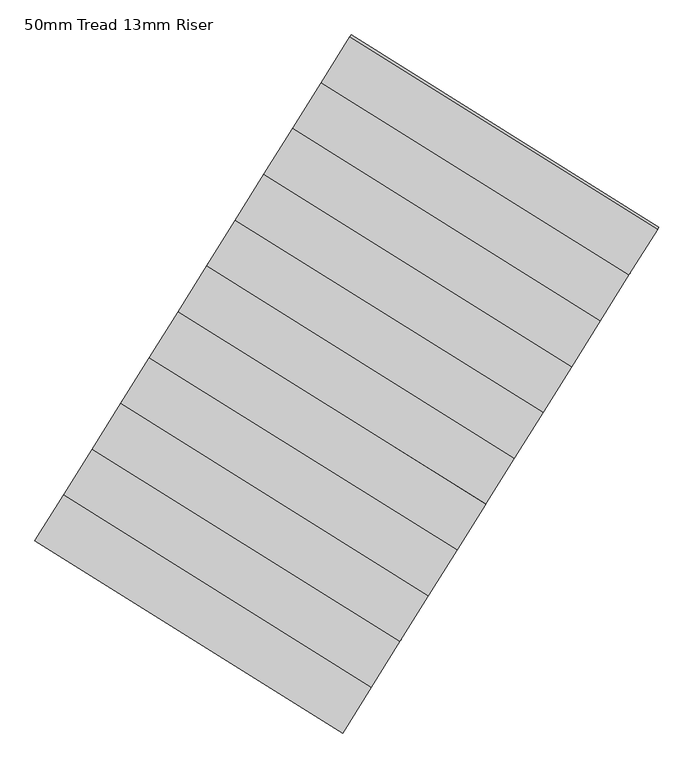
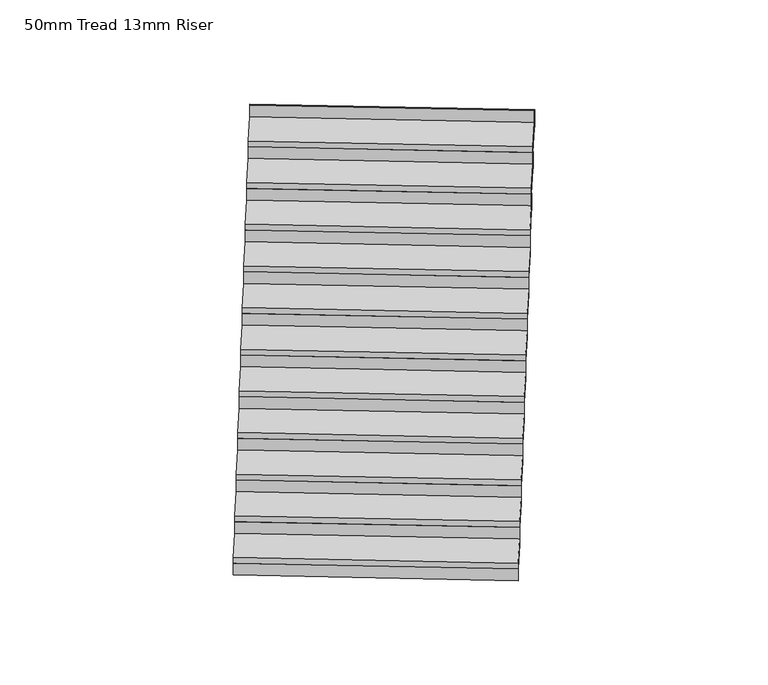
"""IFC4 building model written with IfcOpenShell, lengths in millimetres: stair flight geometry, 50mm Tread 13mm Riser."""

from ifc_helpers import new_model, si_unit, frame, origin, place, context, project, spatial, polyline, outline, extrude, source, transform, mapped, element, save


def stair_flight_50mm_tread_13mm_riser_db3eebb3(model_context):
    return source(origin(), model_context, "Body", "SweptSolid", [
        extrude(outline(polyline([(45890.1107141, -53305.0621823), (45883.4867233, -53315.6627835), (44174.7077702, -52247.8991865), (44181.331761, -52237.2985853), (45890.1107141, -53305.0621823)])), frame((0.0, 0.0, -3600.0), z_axis=(0.0, 0.0, 1.0), x_axis=(1.0, 0.0, 0.0)), (0.0, 0.0, 1.0), 100.0),
        extrude(outline(polyline([(44333.6835494, -51993.4847577), (46042.4625025, -53061.2483547), (45883.4867233, -53315.6627835), (44174.7077702, -52247.8991865), (44333.6835494, -51993.4847577)])), frame((0.0, 0.0, -3500.0), z_axis=(0.0, 0.0, 1.0), x_axis=(1.0, 0.0, 0.0)), (0.0, 0.0, 1.0), 50.0),
        extrude(outline(polyline([(46049.0864934, -53050.6477535), (46042.4625025, -53061.2483547), (44333.6835494, -51993.4847577), (44340.3075402, -51982.8841565), (46049.0864934, -53050.6477535)])), frame((0.0, 0.0, -3500.0), z_axis=(0.0, 0.0, 1.0), x_axis=(1.0, 0.0, 0.0)), (0.0, 0.0, 1.0), 150.0),
        extrude(outline(polyline([(44492.6593287, -51739.0703288), (46201.4382818, -52806.8339258), (46042.4625025, -53061.2483547), (44333.6835494, -51993.4847577), (44492.6593287, -51739.0703288)])), frame((0.0, 0.0, -3350.0), z_axis=(0.0, 0.0, 1.0), x_axis=(1.0, 0.0, 0.0)), (0.0, 0.0, 1.0), 50.0),
        extrude(outline(polyline([(46208.0622726, -52796.2333246), (46201.4382818, -52806.8339258), (44492.6593287, -51739.0703288), (44499.2833195, -51728.4697276), (46208.0622726, -52796.2333246)])), frame((0.0, 0.0, -3350.0), z_axis=(0.0, 0.0, 1.0), x_axis=(1.0, 0.0, 0.0)), (0.0, 0.0, 1.0), 150.0),
        extrude(outline(polyline([(44651.635108, -51484.6559), (46360.4140611, -52552.419497), (46201.4382818, -52806.8339258), (44492.6593287, -51739.0703288), (44651.635108, -51484.6559)])), frame((0.0, 0.0, -3200.0), z_axis=(0.0, 0.0, 1.0), x_axis=(1.0, 0.0, 0.0)), (0.0, 0.0, 1.0), 50.0),
        extrude(outline(polyline([(46367.0380519, -52541.8188958), (46360.4140611, -52552.419497), (44651.635108, -51484.6559), (44658.2590988, -51474.0552988), (46367.0380519, -52541.8188958)])), frame((0.0, 0.0, -3200.0), z_axis=(0.0, 0.0, 1.0), x_axis=(1.0, 0.0, 0.0)), (0.0, 0.0, 1.0), 150.0),
        extrude(outline(polyline([(44810.6108873, -51230.2414711), (46519.3898404, -52298.0050681), (46360.4140611, -52552.419497), (44651.635108, -51484.6559), (44810.6108873, -51230.2414711)])), frame((0.0, 0.0, -3050.0), z_axis=(0.0, 0.0, 1.0), x_axis=(1.0, 0.0, 0.0)), (0.0, 0.0, 1.0), 50.0),
        extrude(outline(polyline([(46526.0138312, -52287.4044669), (46519.3898404, -52298.0050681), (44810.6108873, -51230.2414711), (44817.2348781, -51219.6408699), (46526.0138312, -52287.4044669)])), frame((0.0, 0.0, -3050.0), z_axis=(0.0, 0.0, 1.0), x_axis=(1.0, 0.0, 0.0)), (0.0, 0.0, 1.0), 150.0),
        extrude(outline(polyline([(44969.5866665, -50975.8270423), (46678.3656196, -52043.5906393), (46519.3898404, -52298.0050681), (44810.6108873, -51230.2414711), (44969.5866665, -50975.8270423)])), frame((0.0, 0.0, -2900.0), z_axis=(0.0, 0.0, 1.0), x_axis=(1.0, 0.0, 0.0)), (0.0, 0.0, 1.0), 50.0),
        extrude(outline(polyline([(46684.9896104, -52032.9900381), (46678.3656196, -52043.5906393), (44969.5866665, -50975.8270423), (44976.2106573, -50965.2264411), (46684.9896104, -52032.9900381)])), frame((0.0, 0.0, -2900.0), z_axis=(0.0, 0.0, 1.0), x_axis=(1.0, 0.0, 0.0)), (0.0, 0.0, 1.0), 150.0),
        extrude(outline(polyline([(45128.5624458, -50721.4126134), (46837.3413989, -51789.1762104), (46678.3656196, -52043.5906393), (44969.5866665, -50975.8270423), (45128.5624458, -50721.4126134)])), frame((0.0, 0.0, -2750.0), z_axis=(0.0, 0.0, 1.0), x_axis=(1.0, 0.0, 0.0)), (0.0, 0.0, 1.0), 50.0),
        extrude(outline(polyline([(46843.9653897, -51778.5756092), (46837.3413989, -51789.1762104), (45128.5624458, -50721.4126134), (45135.1864366, -50710.8120122), (46843.9653897, -51778.5756092)])), frame((0.0, 0.0, -2750.0), z_axis=(0.0, 0.0, 1.0), x_axis=(1.0, 0.0, 0.0)), (0.0, 0.0, 1.0), 150.0),
        extrude(outline(polyline([(45287.5382251, -50466.9981846), (46996.3171782, -51534.7617816), (46837.3413989, -51789.1762104), (45128.5624458, -50721.4126134), (45287.5382251, -50466.9981846)])), frame((0.0, 0.0, -2600.0), z_axis=(0.0, 0.0, 1.0), x_axis=(1.0, 0.0, 0.0)), (0.0, 0.0, 1.0), 50.0),
        extrude(outline(polyline([(47002.941169, -51524.1611804), (46996.3171782, -51534.7617816), (45287.5382251, -50466.9981846), (45294.1622159, -50456.3975834), (47002.941169, -51524.1611804)])), frame((0.0, 0.0, -2600.0), z_axis=(0.0, 0.0, 1.0), x_axis=(1.0, 0.0, 0.0)), (0.0, 0.0, 1.0), 150.0),
        extrude(outline(polyline([(45446.5140043, -50212.5837558), (47155.2929574, -51280.3473527), (46996.3171782, -51534.7617816), (45287.5382251, -50466.9981846), (45446.5140043, -50212.5837558)])), frame((0.0, 0.0, -2450.0), z_axis=(0.0, 0.0, 1.0), x_axis=(1.0, 0.0, 0.0)), (0.0, 0.0, 1.0), 50.0),
        extrude(outline(polyline([(47161.9169482, -51269.7467515), (47155.2929574, -51280.3473527), (45446.5140043, -50212.5837558), (45453.1379951, -50201.9831545), (47161.9169482, -51269.7467515)])), frame((0.0, 0.0, -2450.0), z_axis=(0.0, 0.0, 1.0), x_axis=(1.0, 0.0, 0.0)), (0.0, 0.0, 1.0), 150.0),
        extrude(outline(polyline([(45605.4897836, -49958.1693269), (47314.2687367, -51025.9329239), (47155.2929574, -51280.3473527), (45446.5140043, -50212.5837558), (45605.4897836, -49958.1693269)])), frame((0.0, 0.0, -2300.0), z_axis=(0.0, 0.0, 1.0), x_axis=(1.0, 0.0, 0.0)), (0.0, 0.0, 1.0), 50.0),
        extrude(outline(polyline([(47320.8927275, -51015.3323227), (47314.2687367, -51025.9329239), (45605.4897836, -49958.1693269), (45612.1137744, -49947.5687257), (47320.8927275, -51015.3323227)])), frame((0.0, 0.0, -2300.0), z_axis=(0.0, 0.0, 1.0), x_axis=(1.0, 0.0, 0.0)), (0.0, 0.0, 1.0), 150.0),
        extrude(outline(polyline([(45764.4655629, -49703.7548981), (47473.244516, -50771.518495), (47314.2687367, -51025.9329239), (45605.4897836, -49958.1693269), (45764.4655629, -49703.7548981)])), frame((0.0, 0.0, -2150.0), z_axis=(0.0, 0.0, 1.0), x_axis=(1.0, 0.0, 0.0)), (0.0, 0.0, 1.0), 50.0),
        extrude(outline(polyline([(47479.8685068, -50760.9178938), (47473.244516, -50771.518495), (45764.4655629, -49703.7548981), (45771.0895537, -49693.1542969), (47479.8685068, -50760.9178938)])), frame((0.0, 0.0, -2150.0), z_axis=(0.0, 0.0, 1.0), x_axis=(1.0, 0.0, 0.0)), (0.0, 0.0, 1.0), 150.0),
        extrude(outline(polyline([(47638.8442861, -50506.503465), (47632.2202952, -50517.1040662), (45923.4413421, -49449.3404692), (45930.0653329, -49438.739868), (47638.8442861, -50506.503465)])), frame((0.0, 0.0, -2000.0), z_axis=(0.0, 0.0, 1.0), x_axis=(1.0, 0.0, 0.0)), (0.0, 0.0, 1.0), 150.0),
        extrude(outline(polyline([(45923.4413421, -49449.3404692), (47632.2202952, -50517.1040662), (47473.244516, -50771.518495), (45764.4655629, -49703.7548981), (45923.4413421, -49449.3404692)])), frame((0.0, 0.0, -2000.0), z_axis=(0.0, 0.0, 1.0), x_axis=(1.0, 0.0, 0.0)), (0.0, 0.0, 1.0), 50.0),
    ])


if __name__ == "__main__":
    model = new_model("IFC4")
    model_context = context("Model", 3, world=origin())
    ifc_project = project(units=[si_unit("LENGTHUNIT", "METRE", prefix="MILLI")], contexts=[model_context])
    site = spatial("IfcSite", under=ifc_project)
    building = spatial("IfcBuilding", under=site)
    placement = place(None, origin())
    stair_flight_50mm_tread_13mm_riser_shape = stair_flight_50mm_tread_13mm_riser_db3eebb3(model_context)
    element("IfcStairFlight", 1, ObjectType="50mm Tread 13mm Riser", at=placement, inside=building, context=model_context, shape_type="MappedRepresentation", body=[
        mapped(stair_flight_50mm_tread_13mm_riser_shape, transform((0.0, 0.0, 0.0), x_axis=(1.0, 0.0, 0.0), y_axis=(0.0, 1.0, 0.0), z_axis=(0.0, 0.0, 1.0))),
    ])
    save(model, "model.ifc")
